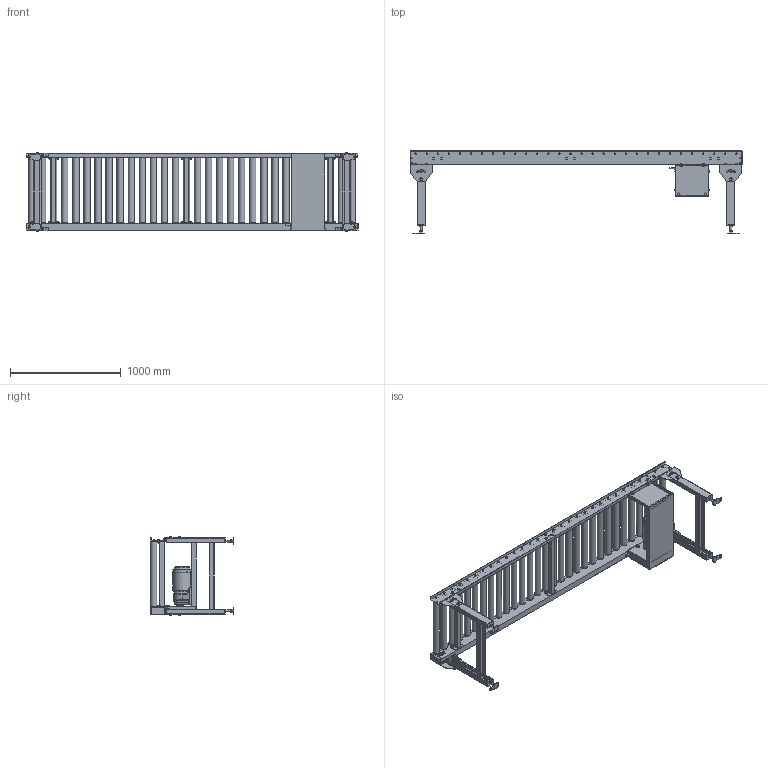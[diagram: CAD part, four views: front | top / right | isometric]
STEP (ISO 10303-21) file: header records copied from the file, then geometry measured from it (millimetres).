
FILE_DESCRIPTION( (''), '2;1');
FILE_NAME ('WEB-MCC3H-57-3-075-630-100-300-R-20S.stp','2025-09-17T16:22:51',(''),(''),'spGate 20.6.2 (****-****-****-****)','','');
FILE_SCHEMA (('AUTOMOTIVE_DESIGN'));
Length unit declared in the file: millimetre
Products named in the file (15): WEB-MCC3H-57-3-075-630-100-300-R-20S; TEMP_X_T-prt0; TEMP_X_T-prt1; TEMP_X_T-prt2; TEMP_X_T-prt3; TEMP_X_T-prt4; TEMP_X_T-prt5; TEMP_X_T-prt6; TEMP_X_T-prt7; TEMP_X_T-prt8; TEMP_X_T-prt9; TEMP_X_T-prt10; TEMP_X_T-prt11; TEMP_X_T-prt12; TEMP_X_T-prt13
Assembly tree (14 placements, depth 2):
  WEB-MCC3H-57-3-075-630-100-300-R-20S
    TEMP_X_T-prt0
    TEMP_X_T-prt1
    TEMP_X_T-prt2
    TEMP_X_T-prt3
    TEMP_X_T-prt4
    TEMP_X_T-prt5
    TEMP_X_T-prt6
    TEMP_X_T-prt7
    TEMP_X_T-prt8
    TEMP_X_T-prt9
    TEMP_X_T-prt10
    TEMP_X_T-prt11
    TEMP_X_T-prt12
    TEMP_X_T-prt13
Bounding box: 3002.4 x 750 x 714.4 mm (x, y, z)
Volume: 91579832 mm3; surface area: 8746865.3 mm2
Topology: 14 solids, 15 shells, 1769 faces, 4589 edges, 3044 vertices
Faces by surface type: plane 1367, cylinder 349, bspline 29, sphere 24
Full cylindrical faces by diameter (mm): 7 x1, 8 x3, 8.5 x4, 9.2 x4, 9.4 x24, 10 x30, 12 x35, 13 x12, 16 x42, 18.4 x16, 21 x18, 24 x8, 25 x4, 27 x1, 28 x1, 30 x2, 31 x1, 47 x30, 57 x30, 63 x1, 149.6 x1, 153 x1
Entity records: 92784 total; most frequent: CARTESIAN_POINT 11689, ORIENTED_EDGE 9130, DIRECTION 9128, COLOUR_RGB 6348, PRESENTATION_STYLE_ASSIGNMENT 6348, STYLED_ITEM 6348, EDGE_CURVE 4565, DRAUGHTING_PRE_DEFINED_CURVE_FONT 4565
